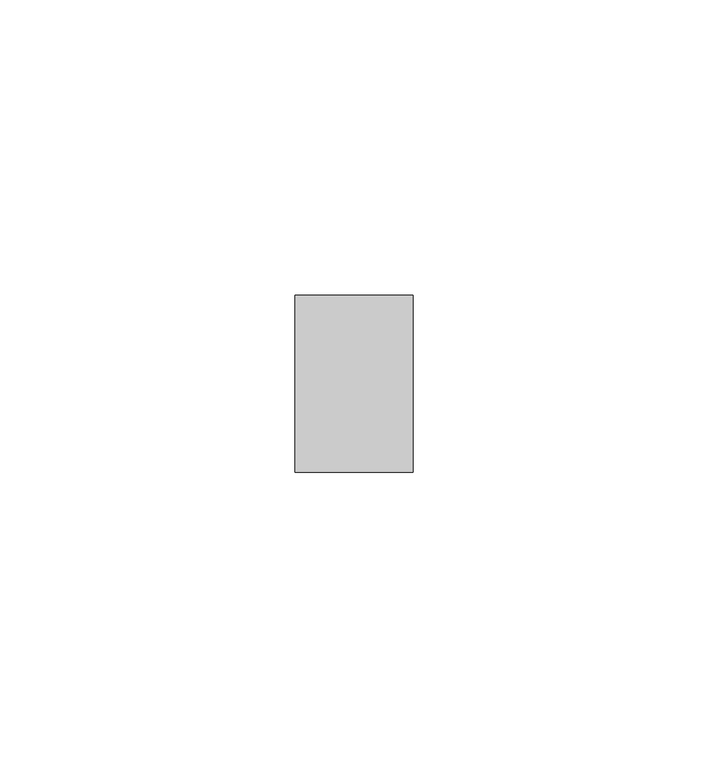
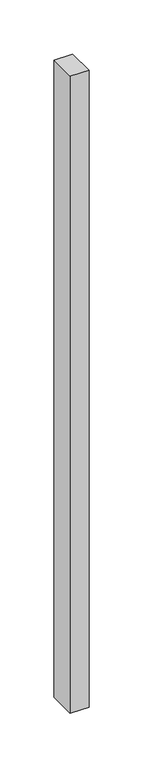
"""IFC4 building model written with IfcOpenShell, lengths in millimetres: member geometry, Прямоугольный импост : Квадрат 10 мм - Зазор между навесными плитами."""

from ifc_helpers import new_model, si_unit, frame, origin, place, context, project, spatial, polyline, outline, extrude, source, transform, mapped, element, save


def member_144fd160(model_context):
    return source(origin(), model_context, "Body", "SweptSolid", [
        extrude(outline(polyline([(0.0, 15.0), (0.0, -15.0), (-20.0, -15.0), (-20.0, 15.0), (0.0, 15.0)])), frame((0.0, 0.0, -718.790217), z_axis=(0.0, 0.0, 1.0), x_axis=(1.0, 0.0, 0.0)), (0.0, 0.0, 1.0), 718.790217),
    ])


if __name__ == "__main__":
    model = new_model("IFC4")
    model_context = context("Model", 3, world=origin())
    ifc_project = project(units=[si_unit("LENGTHUNIT", "METRE", prefix="MILLI")], contexts=[model_context])
    site = spatial("IfcSite", under=ifc_project)
    building = spatial("IfcBuilding", under=site)
    placement = place(None, origin())
    member_shape = member_144fd160(model_context)
    element("IfcMember", 1, ObjectType="Прямоугольный импост : Квадрат 10 мм - Зазор между навесными плитами", at=placement, inside=building, context=model_context, shape_type="MappedRepresentation", body=[
        mapped(member_shape, transform((0.0, 0.0, 0.0), x_axis=(1.0, 0.0, 0.0), y_axis=(0.0, 1.0, 0.0), z_axis=(0.0, 0.0, 1.0))),
    ])
    save(model, "model.ifc")
